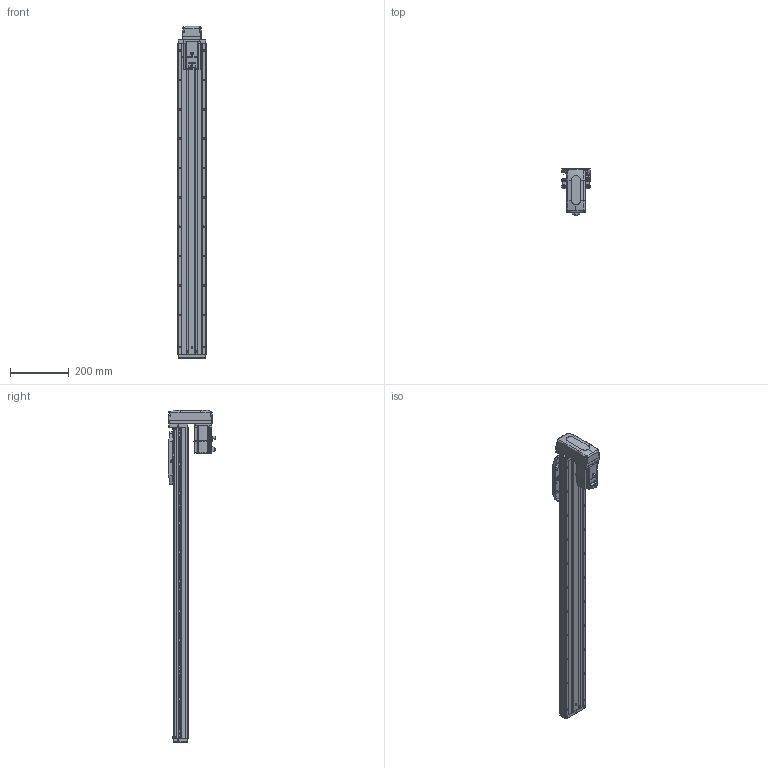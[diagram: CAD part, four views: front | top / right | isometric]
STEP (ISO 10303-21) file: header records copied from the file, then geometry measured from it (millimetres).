
FILE_DESCRIPTION (( 'STEP AP203' ), '1' );
FILE_NAME ('CTHA100-850-BM-M20-C4L.step', '2022-07-06T09:05:37', ( '微软用户' ), ( '微软中国' ), 'SwSTEP 2.0', 'SolidWorks 2020', '' );
FILE_SCHEMA (( 'CONFIG_CONTROL_DESIGN' ));
Length unit declared in the file: millimetre
Products named in the file (19): CTHA86-033; EE_SX911P_R; _X2_4E0983F1_X0_200W_1; CTHA100-850-BM-M20-C4L; CTHA60-017; CTHA100-002; CTHA60-021; CTHA100-031; KTHA100-001_1060; GBT77-2000 M3×3; CTHA86-030; KTHA100-004; GBT 70.1-M3℅6; GBT 70.3-M3℅6; KTHA100-005; GBT70.1 M5℅16; CTHA86-015-1_CTHA86-015-2; GB¨uT 70.2-M3¡Á5_M3¡Á6; CTHA60-016
Assembly tree (64 placements, depth 2):
  CTHA100-850-BM-M20-C4L
    KTHA100-001_1060
    KTHA100-004
    KTHA100-005
    GB¨uT 70.2-M3¡Á5_M3¡Á6  x10
    EE_SX911P_R  x3
    CTHA60-017  x3
    CTHA60-021  x2
    GBT77-2000 M3×3  x6
    GBT 70.1-M3℅6  x10
    GBT70.1 M5℅16  x14
    CTHA60-016  x2
    _X2_4E0983F1_X0_200W_1
    CTHA100-002
    CTHA100-031
    CTHA86-030  x2
    GBT 70.3-M3℅6  x4
    CTHA86-015-1_CTHA86-015-2
    CTHA86-033
Bounding box: 98.82 x 163.2 x 1131 mm (x, y, z)
Volume: 4581712.7 mm3; surface area: 762445.7 mm2
Topology: 66 solids, 66 shells, 2729 faces, 6583 edges, 4084 vertices
Faces by surface type: plane 1428, cylinder 719, cone 359, torus 124, bspline 75, sphere 24
Entity records: 47930 total; most frequent: CARTESIAN_POINT 9371, DIRECTION 7424, ORIENTED_EDGE 7282, EDGE_CURVE 3641, AXIS2_PLACEMENT_3D 2509, VECTOR 2406, LINE 2406, VERTEX_POINT 2304
